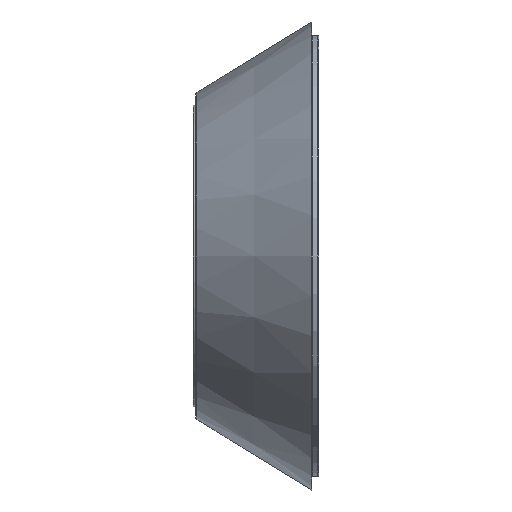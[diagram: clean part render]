
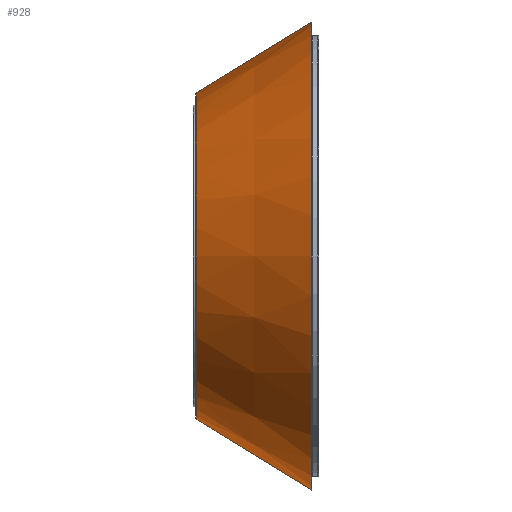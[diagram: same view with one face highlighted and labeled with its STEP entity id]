
A CAD part, left-side view. The second image highlights one B-rep face of the part: STEP entity #928.
In plain terms, the highlighted conical face has half-angle 31.5 degrees and reference radius 303.588 mm.
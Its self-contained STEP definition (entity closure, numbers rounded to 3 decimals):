
#852=CARTESIAN_POINT('Vertex',(0.,-679.848,435.091)) ;
#859=CARTESIAN_POINT('Vertex',(0.,-679.848,-435.091)) ;
#874=CARTESIAN_POINT('Axis2P3D Location',(0.,-679.848,0.)) ;
#886=CARTESIAN_POINT('Axis2P3D Location',(0.,-465.255,0.)) ;
#891=CARTESIAN_POINT('Line Origine',(0.,-572.551,369.339)) ;
#895=CARTESIAN_POINT('Vertex',(0.,-465.255,303.588)) ;
#898=CARTESIAN_POINT('Line Origine',(0.,-572.551,-369.339)) ;
#902=CARTESIAN_POINT('Vertex',(0.,-465.255,-303.588)) ;
#917=CARTESIAN_POINT('Axis2P3D Location',(0.,-465.255,0.)) ;
#875=DIRECTION('Axis2P3D Direction',(0.,-1.,0.)) ;
#887=DIRECTION('Axis2P3D Direction',(0.,-1.,0.)) ;
#888=DIRECTION('Axis2P3D XDirection',(0.,0.,1.)) ;
#892=DIRECTION('Vector Direction',(0.,-0.853,0.522)) ;
#899=DIRECTION('Vector Direction',(0.,-0.853,-0.522)) ;
#918=DIRECTION('Axis2P3D Direction',(0.,-1.,0.)) ;
#876=AXIS2_PLACEMENT_3D('Circle Axis2P3D',#874,#875,$) ;
#889=AXIS2_PLACEMENT_3D('Cone Axis2P3D',#886,#887,#888) ;
#919=AXIS2_PLACEMENT_3D('Circle Axis2P3D',#917,#918,$) ;
#923=ORIENTED_EDGE('',*,*,#904,.T.) ;
#924=ORIENTED_EDGE('',*,*,#878,.F.) ;
#925=ORIENTED_EDGE('',*,*,#897,.F.) ;
#926=ORIENTED_EDGE('',*,*,#921,.T.) ;
#893=VECTOR('Line Direction',#892,1.) ;
#900=VECTOR('Line Direction',#899,1.) ;
#928=ADVANCED_FACE('Corps de pi\X2\00E8\X0\ce.2',(#927),#890,.T.) ;
#877=CIRCLE('generated circle',#876,435.091) ;
#920=CIRCLE('generated circle',#919,303.588) ;
#890=CONICAL_SURFACE('Cone',#889,303.588,0.55) ;
#878=EDGE_CURVE('',#853,#860,#877,.T.) ;
#897=EDGE_CURVE('',#896,#853,#894,.T.) ;
#904=EDGE_CURVE('',#903,#860,#901,.T.) ;
#921=EDGE_CURVE('',#896,#903,#920,.T.) ;
#922=EDGE_LOOP('',(#923,#924,#925,#926)) ;
#927=FACE_OUTER_BOUND('',#922,.T.) ;
#894=LINE('Line',#891,#893) ;
#901=LINE('Line',#898,#900) ;
#853=VERTEX_POINT('',#852) ;
#860=VERTEX_POINT('',#859) ;
#896=VERTEX_POINT('',#895) ;
#903=VERTEX_POINT('',#902) ;
